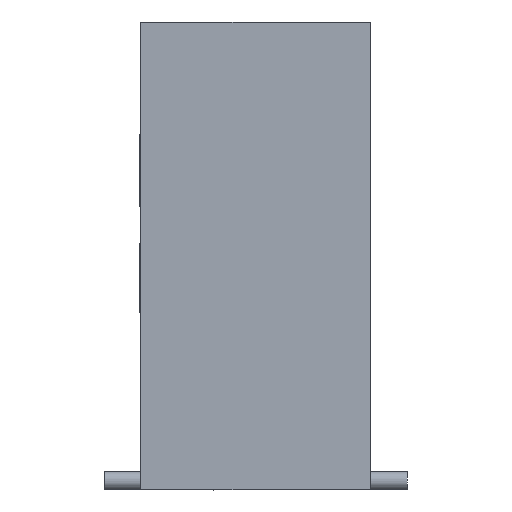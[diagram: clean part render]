
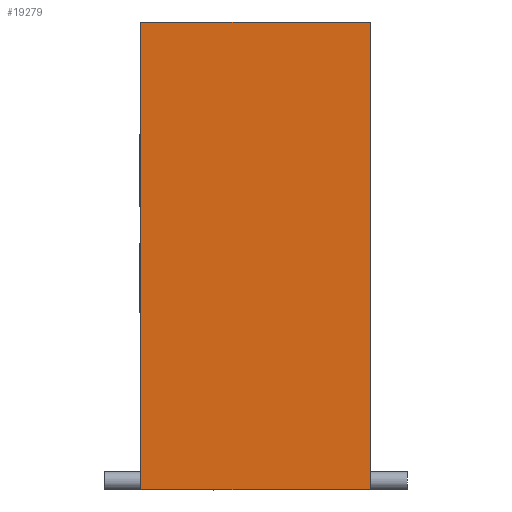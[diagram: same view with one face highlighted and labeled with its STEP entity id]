
A CAD part, left-side view. The second image highlights one B-rep face of the part: STEP entity #19279.
In plain terms, the highlighted planar face has unit normal (-1, 0, 0).
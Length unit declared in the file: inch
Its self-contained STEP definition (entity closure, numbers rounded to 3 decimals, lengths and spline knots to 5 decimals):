
#2608 = CARTESIAN_POINT ( 'NONE',  ( -0.5375, -0.0575, -0.255 ) ) ;
#3561 = VERTEX_POINT ( 'NONE', #2608 ) ;
#4027 = DIRECTION ( 'NONE',  ( 0., -1., 0. ) ) ;
#4428 = EDGE_CURVE ( 'NONE', #3561, #38792, #7031, .T. ) ;
#4629 = CARTESIAN_POINT ( 'NONE',  ( -0.5375, 0.0675, 0. ) ) ;
#5059 = LINE ( 'NONE', #21190, #30313 ) ;
#7031 = LINE ( 'NONE', #20016, #25306 ) ;
#9149 = CARTESIAN_POINT ( 'NONE',  ( -0.5375, 0.0675, 0. ) ) ;
#9715 = VECTOR ( 'NONE', #4027, 39.37008 ) ;
#10481 = CARTESIAN_POINT ( 'NONE',  ( -0.5375, 0.0675, -0.225 ) ) ;
#10841 = DIRECTION ( 'NONE',  ( 0., 0., 1. ) ) ;
#11874 = DIRECTION ( 'NONE',  ( -1., 0., 0. ) ) ;
#12719 = EDGE_LOOP ( 'NONE', ( #20929, #41811, #40929, #30841 ) ) ;
#14789 = LINE ( 'NONE', #10481, #41121 ) ;
#16872 = EDGE_CURVE ( 'NONE', #3561, #24729, #5059, .T. ) ;
#19279 = ADVANCED_FACE ( 'NONE', ( #43655 ), #25532, .T. ) ;
#20016 = CARTESIAN_POINT ( 'NONE',  ( -0.5375, 0.0675, -0.255 ) ) ;
#20929 = ORIENTED_EDGE ( 'NONE', *, *, #26137, .F. ) ;
#21190 = CARTESIAN_POINT ( 'NONE',  ( -0.5375, -0.0575, -0.225 ) ) ;
#24134 = DIRECTION ( 'NONE',  ( 0., 0., 1. ) ) ;
#24729 = VERTEX_POINT ( 'NONE', #28870 ) ;
#25306 = VECTOR ( 'NONE', #37132, 39.37008 ) ;
#25532 = PLANE ( 'NONE',  #25955 ) ;
#25955 = AXIS2_PLACEMENT_3D ( 'NONE', #28993, #11874, #35914 ) ;
#26137 = EDGE_CURVE ( 'NONE', #37308, #24729, #26893, .T. ) ;
#26893 = LINE ( 'NONE', #4629, #9715 ) ;
#28870 = CARTESIAN_POINT ( 'NONE',  ( -0.5375, -0.0575, 0. ) ) ;
#28993 = CARTESIAN_POINT ( 'NONE',  ( -0.5375, 0.0675, -0.225 ) ) ;
#29697 = EDGE_CURVE ( 'NONE', #38792, #37308, #14789, .T. ) ;
#30313 = VECTOR ( 'NONE', #10841, 39.37008 ) ;
#30841 = ORIENTED_EDGE ( 'NONE', *, *, #16872, .T. ) ;
#31503 = CARTESIAN_POINT ( 'NONE',  ( -0.5375, 0.0675, -0.255 ) ) ;
#35914 = DIRECTION ( 'NONE',  ( 0., -1., 0. ) ) ;
#37132 = DIRECTION ( 'NONE',  ( 0., 1., 0. ) ) ;
#37308 = VERTEX_POINT ( 'NONE', #9149 ) ;
#38792 = VERTEX_POINT ( 'NONE', #31503 ) ;
#40929 = ORIENTED_EDGE ( 'NONE', *, *, #4428, .F. ) ;
#41121 = VECTOR ( 'NONE', #24134, 39.37008 ) ;
#41811 = ORIENTED_EDGE ( 'NONE', *, *, #29697, .F. ) ;
#43655 = FACE_OUTER_BOUND ( 'NONE', #12719, .T. ) ;
